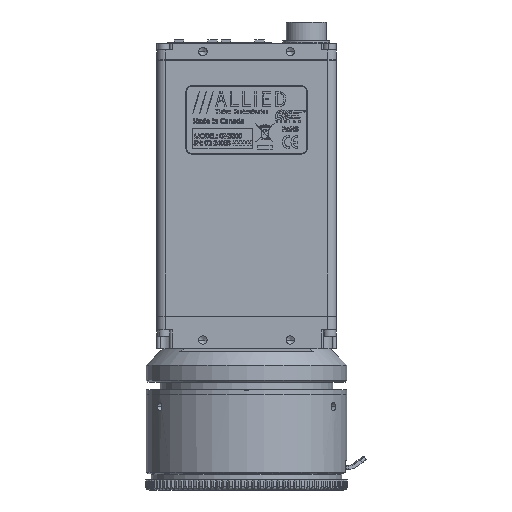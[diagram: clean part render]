
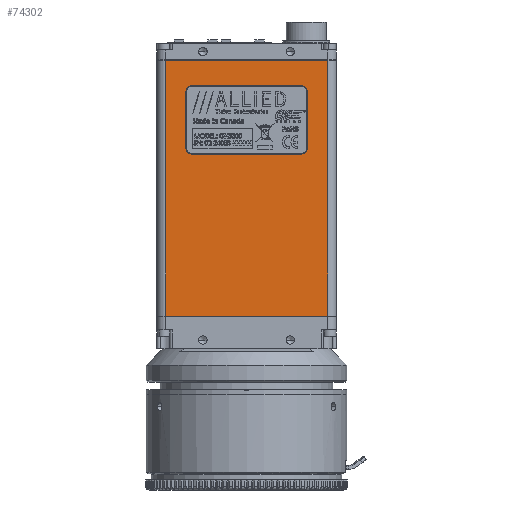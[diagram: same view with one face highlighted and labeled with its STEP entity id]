
A CAD part, front view. The second image highlights one B-rep face of the part: STEP entity #74302.
In plain terms, the highlighted planar face has unit normal (0, -1, 0).
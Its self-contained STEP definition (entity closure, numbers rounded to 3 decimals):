
#375 = AXIS2_PLACEMENT_3D ( 'NONE', #217928, #107021, #236022 ) ;
#1794 = VERTEX_POINT ( 'NONE', #63059 ) ;
#5282 = EDGE_CURVE ( 'NONE', #29782, #89490, #72308, .T. ) ;
#7962 = ORIENTED_EDGE ( 'NONE', *, *, #124834, .T. ) ;
#8512 = ORIENTED_EDGE ( 'NONE', *, *, #128344, .T. ) ;
#12147 = ORIENTED_EDGE ( 'NONE', *, *, #181188, .T. ) ;
#16126 = DIRECTION ( 'NONE',  ( 0., 1., 0. ) ) ;
#19048 = DIRECTION ( 'NONE',  ( 1., 0., 0. ) ) ;
#20781 = LINE ( 'NONE', #197015, #207864 ) ;
#22515 = VERTEX_POINT ( 'NONE', #131072 ) ;
#29782 = VERTEX_POINT ( 'NONE', #121775 ) ;
#33604 = EDGE_CURVE ( 'NONE', #213997, #187958, #211915, .T. ) ;
#37787 = LINE ( 'NONE', #228213, #181215 ) ;
#39944 = ORIENTED_EDGE ( 'NONE', *, *, #142740, .T. ) ;
#41202 = AXIS2_PLACEMENT_3D ( 'NONE', #128869, #16126, #147556 ) ;
#50491 = EDGE_LOOP ( 'NONE', ( #8512, #170471, #39944, #7962, #65275, #89089, #81157, #61334 ) ) ;
#57235 = DIRECTION ( 'NONE',  ( 0., 0., 1. ) ) ;
#61334 = ORIENTED_EDGE ( 'NONE', *, *, #105010, .T. ) ;
#63059 = CARTESIAN_POINT ( 'NONE',  ( -16.447, -10.16, 10.16 ) ) ;
#63502 = AXIS2_PLACEMENT_3D ( 'NONE', #241697, #131718, #19048 ) ;
#64799 = DIRECTION ( 'NONE',  ( 0., 0., 1. ) ) ;
#65275 = ORIENTED_EDGE ( 'NONE', *, *, #198205, .T. ) ;
#68995 = AXIS2_PLACEMENT_3D ( 'NONE', #183229, #71351, #201827 ) ;
#69205 = VECTOR ( 'NONE', #133877, 1000. ) ;
#70807 = DIRECTION ( 'NONE',  ( 0., 1., 0. ) ) ;
#71351 = DIRECTION ( 'NONE',  ( 0., 1., 0. ) ) ;
#72308 = LINE ( 'NONE', #174749, #165976 ) ;
#74302 = ADVANCED_FACE ( 'NONE', ( #138442, #193508 ), #143831, .T. ) ;
#81157 = ORIENTED_EDGE ( 'NONE', *, *, #147164, .T. ) ;
#84893 = LINE ( 'NONE', #150788, #226904 ) ;
#85463 = DIRECTION ( 'NONE',  ( -1., 0., 0. ) ) ;
#86185 = CARTESIAN_POINT ( 'NONE',  ( 18.034, -10.16, 28.893 ) ) ;
#89089 = ORIENTED_EDGE ( 'NONE', *, *, #181597, .T. ) ;
#89490 = VERTEX_POINT ( 'NONE', #179702 ) ;
#91067 = VECTOR ( 'NONE', #200030, 1000. ) ;
#91356 = VERTEX_POINT ( 'NONE', #134341 ) ;
#103509 = ORIENTED_EDGE ( 'NONE', *, *, #33604, .T. ) ;
#105010 = EDGE_CURVE ( 'NONE', #139411, #203993, #234570, .T. ) ;
#107021 = DIRECTION ( 'NONE',  ( 0., -1., 0. ) ) ;
#108705 = CARTESIAN_POINT ( 'NONE',  ( 24.13, -10.16, -38.1 ) ) ;
#114081 = AXIS2_PLACEMENT_3D ( 'NONE', #182663, #70807, #201297 ) ;
#121775 = CARTESIAN_POINT ( 'NONE',  ( -16.447, -10.16, 30.48 ) ) ;
#124834 = EDGE_CURVE ( 'NONE', #239173, #218386, #37787, .T. ) ;
#128344 = EDGE_CURVE ( 'NONE', #203993, #29782, #224743, .T. ) ;
#128869 = CARTESIAN_POINT ( 'NONE',  ( -16.447, -10.16, 11.748 ) ) ;
#131072 = CARTESIAN_POINT ( 'NONE',  ( -24.13, -10.16, 38.1 ) ) ;
#131419 = CARTESIAN_POINT ( 'NONE',  ( 24.13, -10.16, -38.1 ) ) ;
#131718 = DIRECTION ( 'NONE',  ( 0., 1., 0. ) ) ;
#133877 = DIRECTION ( 'NONE',  ( 1., 0., 0. ) ) ;
#133944 = CIRCLE ( 'NONE', #63502, 1.587 ) ;
#134341 = CARTESIAN_POINT ( 'NONE',  ( 16.447, -10.16, 10.16 ) ) ;
#137712 = ORIENTED_EDGE ( 'NONE', *, *, #237007, .T. ) ;
#138442 = FACE_OUTER_BOUND ( 'NONE', #145888, .T. ) ;
#139411 = VERTEX_POINT ( 'NONE', #201795 ) ;
#142740 = EDGE_CURVE ( 'NONE', #89490, #239173, #171599, .T. ) ;
#143831 = PLANE ( 'NONE',  #375 ) ;
#145888 = EDGE_LOOP ( 'NONE', ( #12147, #161113, #103509, #137712 ) ) ;
#146432 = DIRECTION ( 'NONE',  ( 0., 0., -1. ) ) ;
#147164 = EDGE_CURVE ( 'NONE', #1794, #139411, #151974, .T. ) ;
#147556 = DIRECTION ( 'NONE',  ( 1., 0., 0. ) ) ;
#147693 = LINE ( 'NONE', #237748, #191131 ) ;
#147921 = CARTESIAN_POINT ( 'NONE',  ( 18.034, -10.16, 11.748 ) ) ;
#150788 = CARTESIAN_POINT ( 'NONE',  ( 24.13, -10.16, -92.399 ) ) ;
#151974 = CIRCLE ( 'NONE', #41202, 1.587 ) ;
#156965 = CARTESIAN_POINT ( 'NONE',  ( 24.13, -10.16, 38.1 ) ) ;
#161113 = ORIENTED_EDGE ( 'NONE', *, *, #172380, .T. ) ;
#165976 = VECTOR ( 'NONE', #175818, 1000. ) ;
#170471 = ORIENTED_EDGE ( 'NONE', *, *, #5282, .T. ) ;
#171599 = CIRCLE ( 'NONE', #114081, 1.587 ) ;
#172380 = EDGE_CURVE ( 'NONE', #22515, #213997, #147693, .T. ) ;
#174749 = CARTESIAN_POINT ( 'NONE',  ( 24.13, -10.16, 30.48 ) ) ;
#175818 = DIRECTION ( 'NONE',  ( 1., 0., 0. ) ) ;
#179702 = CARTESIAN_POINT ( 'NONE',  ( 16.447, -10.16, 30.48 ) ) ;
#181188 = EDGE_CURVE ( 'NONE', #235237, #22515, #20781, .T. ) ;
#181215 = VECTOR ( 'NONE', #226653, 1000. ) ;
#181434 = CARTESIAN_POINT ( 'NONE',  ( 24.13, -10.16, 10.16 ) ) ;
#181597 = EDGE_CURVE ( 'NONE', #91356, #1794, #238438, .T. ) ;
#182663 = CARTESIAN_POINT ( 'NONE',  ( 16.447, -10.16, 28.893 ) ) ;
#183229 = CARTESIAN_POINT ( 'NONE',  ( -16.447, -10.16, 28.893 ) ) ;
#183506 = CARTESIAN_POINT ( 'NONE',  ( -18.034, -10.16, 28.893 ) ) ;
#186074 = VECTOR ( 'NONE', #64799, 1000. ) ;
#187958 = VERTEX_POINT ( 'NONE', #108705 ) ;
#188052 = CARTESIAN_POINT ( 'NONE',  ( -24.13, -10.16, -38.1 ) ) ;
#191131 = VECTOR ( 'NONE', #146432, 1000. ) ;
#193508 = FACE_BOUND ( 'NONE', #50491, .T. ) ;
#197015 = CARTESIAN_POINT ( 'NONE',  ( 24.13, -10.16, 38.1 ) ) ;
#198205 = EDGE_CURVE ( 'NONE', #218386, #91356, #133944, .T. ) ;
#200030 = DIRECTION ( 'NONE',  ( -1., 0., 0. ) ) ;
#201297 = DIRECTION ( 'NONE',  ( 1., 0., 0. ) ) ;
#201795 = CARTESIAN_POINT ( 'NONE',  ( -18.034, -10.16, 11.748 ) ) ;
#201827 = DIRECTION ( 'NONE',  ( 1., 0., 0. ) ) ;
#203993 = VERTEX_POINT ( 'NONE', #183506 ) ;
#207864 = VECTOR ( 'NONE', #85463, 1000. ) ;
#211915 = LINE ( 'NONE', #131419, #69205 ) ;
#213997 = VERTEX_POINT ( 'NONE', #188052 ) ;
#217928 = CARTESIAN_POINT ( 'NONE',  ( 24.13, -10.16, -92.399 ) ) ;
#218386 = VERTEX_POINT ( 'NONE', #147921 ) ;
#224743 = CIRCLE ( 'NONE', #68995, 1.587 ) ;
#226653 = DIRECTION ( 'NONE',  ( 0., 0., -1. ) ) ;
#226904 = VECTOR ( 'NONE', #57235, 1000. ) ;
#228213 = CARTESIAN_POINT ( 'NONE',  ( 18.034, -10.16, -92.399 ) ) ;
#231130 = CARTESIAN_POINT ( 'NONE',  ( -18.034, -10.16, -92.399 ) ) ;
#234570 = LINE ( 'NONE', #231130, #186074 ) ;
#235237 = VERTEX_POINT ( 'NONE', #156965 ) ;
#236022 = DIRECTION ( 'NONE',  ( 1., 0., 0. ) ) ;
#237007 = EDGE_CURVE ( 'NONE', #187958, #235237, #84893, .T. ) ;
#237748 = CARTESIAN_POINT ( 'NONE',  ( -24.13, -10.16, -92.399 ) ) ;
#238438 = LINE ( 'NONE', #181434, #91067 ) ;
#239173 = VERTEX_POINT ( 'NONE', #86185 ) ;
#241697 = CARTESIAN_POINT ( 'NONE',  ( 16.447, -10.16, 11.748 ) ) ;
